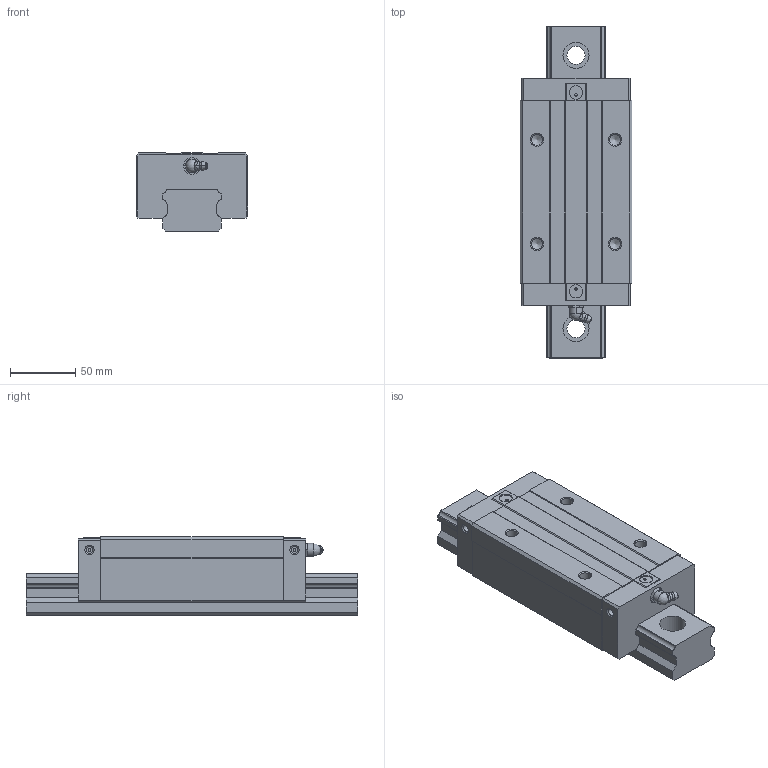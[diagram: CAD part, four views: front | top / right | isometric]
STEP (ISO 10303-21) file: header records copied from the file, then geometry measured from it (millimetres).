
FILE_DESCRIPTION(/* description */ (''),/* implementation_level */ '2;1');
FILE_NAME(/* name */ 'SME45-LSB',/* time_stamp */ '2008-10-06T10:40:55+08:00',/* author */ (''),/* organization */ (''),/* preprocessor_version */ 'ST-DEVELOPER v11',/* originating_system */ 'UGS - NX 5.0',/* authorisation */ '');
FILE_SCHEMA (('AUTOMOTIVE_DESIGN { 1 0 10303 214 1 1 1 1 }'));
Length unit declared in the file: millimetre
Products named in the file (1): jillBD1Calpr
Bounding box: 86 x 255 x 60 mm (x, y, z)
Volume: 896419 mm3; surface area: 111547.3 mm2
Topology: 3 solids, 3 shells, 186 faces, 463 edges, 301 vertices
Faces by surface type: plane 110, cylinder 48, cone 14, torus 10, bspline 2, sphere 2
Full cylindrical faces by diameter (mm): 2 x6, 5.2 x4, 8.5 x4, 10.2 x4, 13 x2, 14 x3, 20 x3
Entity records: 5676 total; most frequent: CARTESIAN_POINT 1081, DIRECTION 888, ORIENTED_EDGE 822, EDGE_CURVE 411, AXIS2_PLACEMENT_3D 316, VERTEX_POINT 293, LINE 256, VECTOR 256
